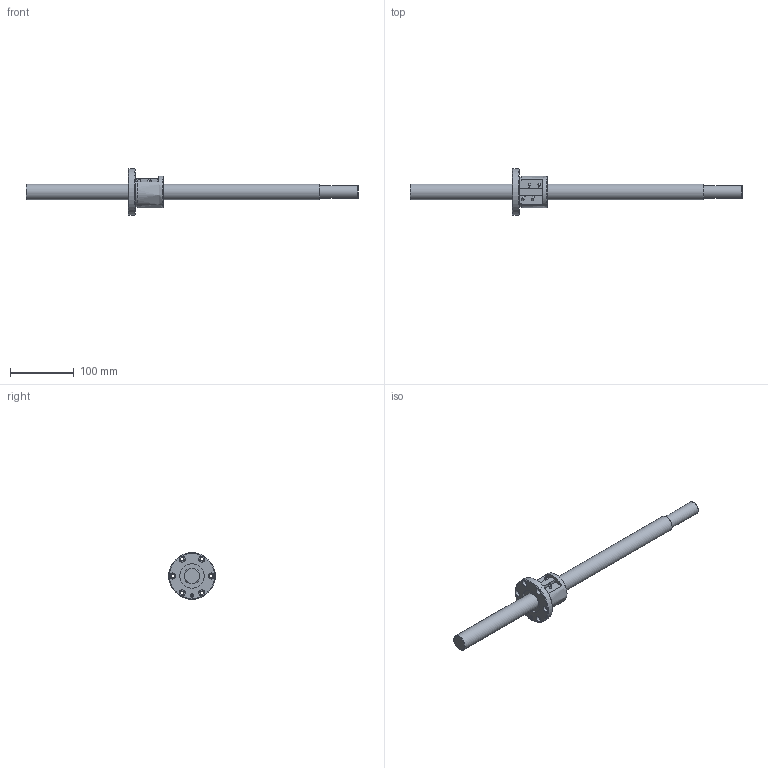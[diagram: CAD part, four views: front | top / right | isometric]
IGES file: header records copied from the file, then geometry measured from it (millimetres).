
Start section: Data from Parasolid IGES Translator 26.0.171, Copyright(c) 2006 Siemens PLM Software. All Rights Reserved.
Global section: file name: BNF2505-5RRG1+520LC5A(00).igs; native system: By Siemens PLM Incorporated; preprocessor: XPlus GENERIC/IGES 26.0.171; author: Noname; organization: Noname; date: 20240715.074129; units: millimetre
Bounding box: 520 x 73 x 73 mm (x, y, z)
Surface area: 64776.8 mm2 (no closed solid volume)
Topology: 0 solids, 0 shells, 71 faces, 328 edges, 286 vertices
Faces by surface type: revolution 47, extrusion 24
